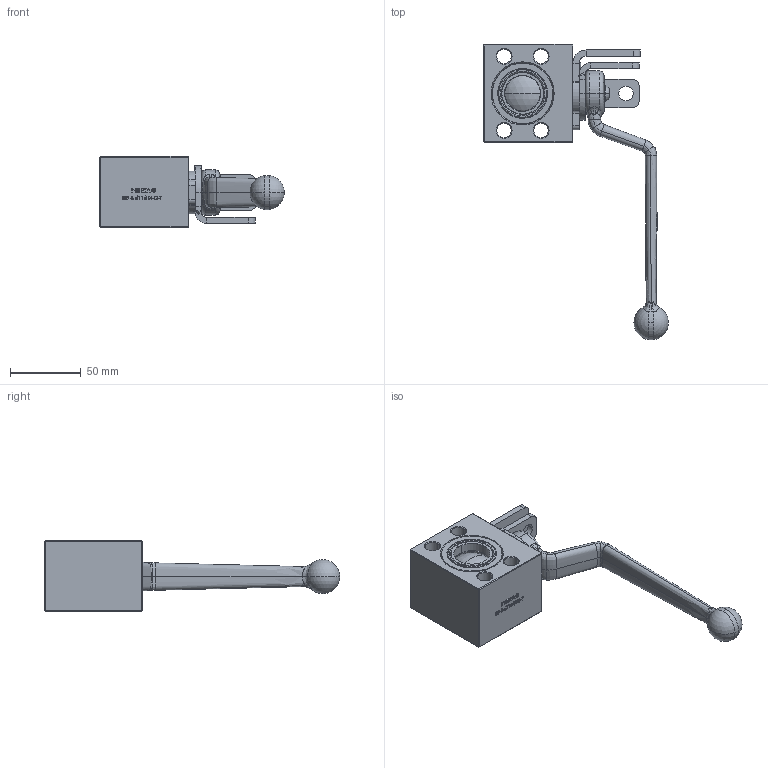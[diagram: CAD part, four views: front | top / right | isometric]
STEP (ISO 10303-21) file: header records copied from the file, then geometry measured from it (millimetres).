
FILE_DESCRIPTION (( 'STEP AP214' ), '1' );
FILE_NAME ('IBF-B-6116-N-D-T Closed~.STEP', '2025-12-01T15:10:14', ( '' ), ( '' ), 'SwSTEP 2.0', 'SolidWorks 2023', '' );
FILE_SCHEMA (( 'AUTOMOTIVE_DESIGN' ));
Length unit declared in the file: inch
Products named in the file (1): IBF-B-6116-N-D-T Closed~
Bounding box: 130.64 x 208.85 x 50.42 mm (x, y, z)
Volume: 230526 mm3; surface area: 74553.2 mm2
Topology: 2 solids, 3 shells, 1050 faces, 2818 edges, 1835 vertices
Faces by surface type: plane 509, bspline 192, cylinder 178, cone 67, torus 66, sphere 38
Entity records: 58164 total; most frequent: CARTESIAN_POINT 33783, ORIENTED_EDGE 5604, DIRECTION 4246, EDGE_CURVE 2802, VERTEX_POINT 1827, AXIS2_PLACEMENT_3D 1471, LINE 1304, VECTOR 1304
